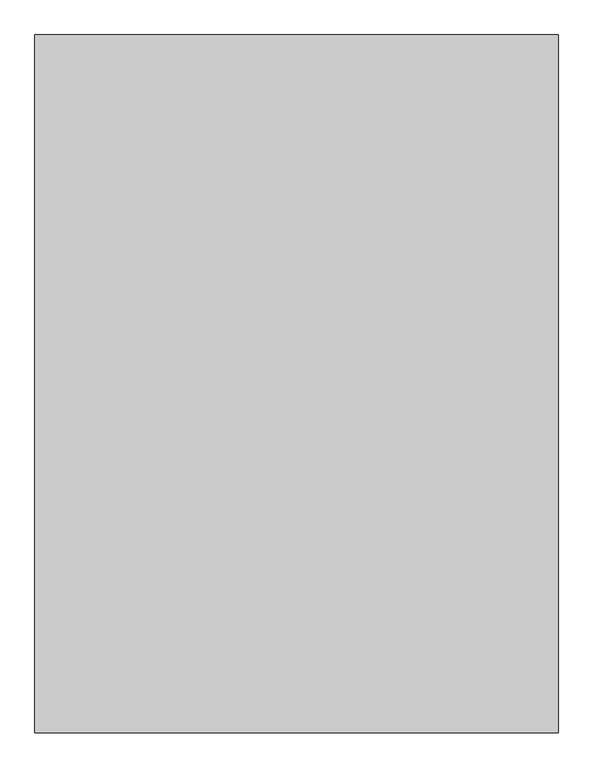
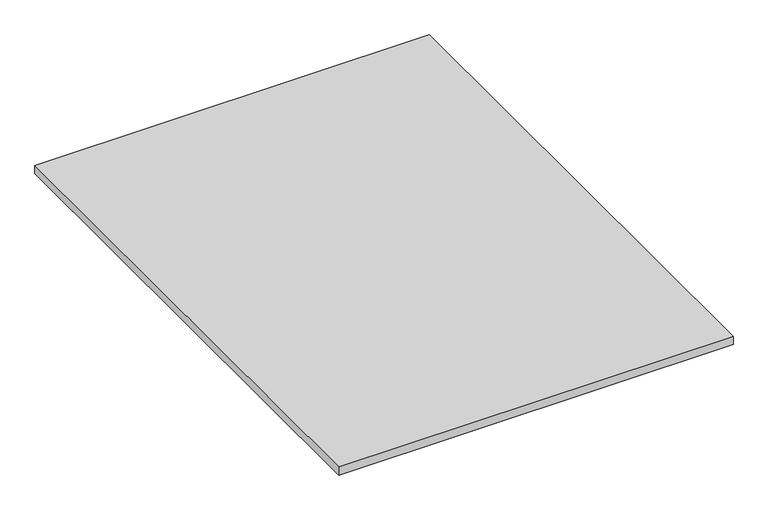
"""IFC4 building model written with IfcOpenShell, lengths in millimetres: proxy geometry, Base de duche18 : Base de duche."""

from ifc_helpers import new_model, si_unit, origin, origin_with_axes, place, context, project, spatial, polyline, outline, extrude, source, transform, mapped, element, save


def generic_models_9a7555cd(model_context):
    return source(origin(), model_context, "Body", "SweptSolid", [
        extrude(outline(polyline([(18854.882385, 11080.4374423), (18854.882385, 9880.4374423), (17954.882385, 9880.4374423), (17954.882385, 11080.4374423), (18854.882385, 11080.4374423)])), origin_with_axes(), (0.0, 0.0, 1.0), 20.0),
    ])


if __name__ == "__main__":
    model = new_model("IFC4")
    model_context = context("Model", 3, world=origin())
    ifc_project = project(units=[si_unit("LENGTHUNIT", "METRE", prefix="MILLI")], contexts=[model_context])
    site = spatial("IfcSite", under=ifc_project)
    building = spatial("IfcBuilding", under=site)
    placement = place(None, origin())
    generic_models_shape = generic_models_9a7555cd(model_context)
    element("IfcBuildingElementProxy", 1, Name="Base de duche18 : Base de duche", ObjectType="Base de duche18 : Base de duche", at=placement, inside=building, context=model_context, shape_type="MappedRepresentation", body=[
        mapped(generic_models_shape, transform((0.0, 0.0, 0.0), x_axis=(1.0, 0.0, 0.0), y_axis=(0.0, 1.0, 0.0), z_axis=(0.0, 0.0, 1.0))),
    ])
    save(model, "model.ifc")
